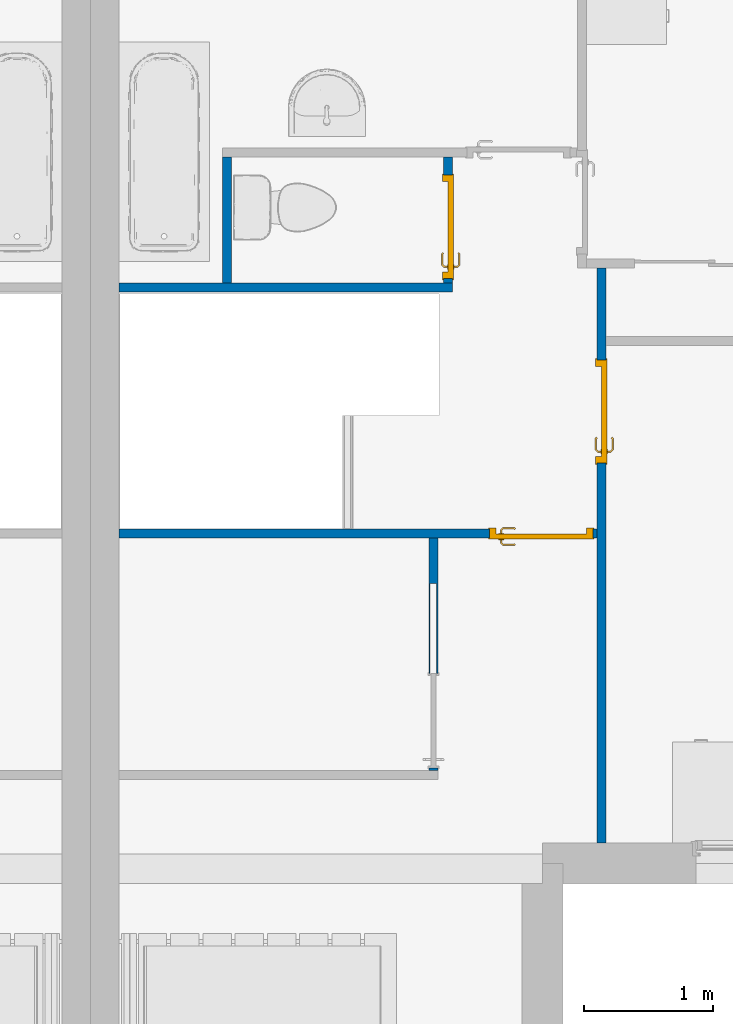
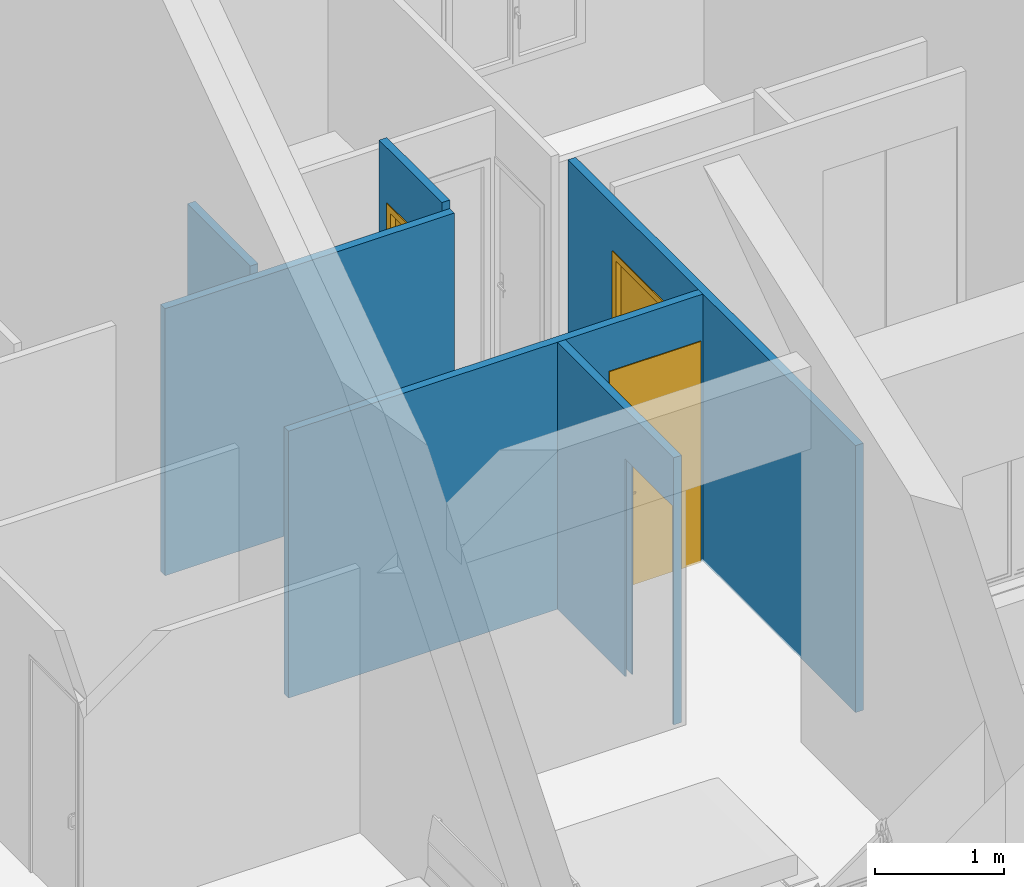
# One storey, part 16 of 61: 6 walls, 3 doors, 4 openings.
"""IFC2X3 building model written with IfcOpenShell, lengths in metres."""

from ifc_helpers import new_model, entity, si_unit, converted_unit, derived_unit, direction, frame, frame_2d, origin, place, context, subcontext, project, spatial, rectangle, extrude, faceted_brep, source, transform, mapped, material, material_list, layer, layer_set, layer_usage, type_object, type_shapes, element, fill, save


model = new_model("IFC2X3")

# Units and contexts
model_context = context("Model", 3, precision=1e-05, world=origin(), true_north=direction((6.12303176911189e-17, 1.0)))
body_context = subcontext(model_context, "Body", "Model", "MODEL_VIEW")
ifc_project = project(units=[si_unit("LENGTHUNIT", "METRE"), si_unit("AREAUNIT", "SQUARE_METRE"), si_unit("VOLUMEUNIT", "CUBIC_METRE"), converted_unit("PLANEANGLEUNIT", "DEGREE", entity("IfcRatioMeasure", 0.0174532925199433), si_unit("PLANEANGLEUNIT", "RADIAN"), dimensions=[0, 0, 0, 0, 0, 0, 0]), si_unit("MASSUNIT", "GRAM", prefix="KILO"), derived_unit("MASSDENSITYUNIT", [(si_unit("MASSUNIT", "GRAM", prefix="KILO"), 1), (si_unit("LENGTHUNIT", "METRE"), -3)]), si_unit("TIMEUNIT", "SECOND"), si_unit("FREQUENCYUNIT", "HERTZ"), si_unit("THERMODYNAMICTEMPERATUREUNIT", "DEGREE_CELSIUS"), derived_unit("THERMALTRANSMITTANCEUNIT", [(si_unit("MASSUNIT", "GRAM", prefix="KILO"), 1), (si_unit("THERMODYNAMICTEMPERATUREUNIT", "KELVIN"), -1), (si_unit("TIMEUNIT", "SECOND"), -3)]), derived_unit("VOLUMETRICFLOWRATEUNIT", [(si_unit("LENGTHUNIT", "METRE"), 3), (si_unit("TIMEUNIT", "SECOND"), -1)]), si_unit("ELECTRICCURRENTUNIT", "AMPERE"), si_unit("ELECTRICVOLTAGEUNIT", "VOLT"), si_unit("POWERUNIT", "WATT"), si_unit("FORCEUNIT", "NEWTON", prefix="KILO"), si_unit("ILLUMINANCEUNIT", "LUX"), si_unit("LUMINOUSFLUXUNIT", "LUMEN"), si_unit("LUMINOUSINTENSITYUNIT", "CANDELA"), derived_unit("USERDEFINED", [(si_unit("MASSUNIT", "GRAM", prefix="KILO"), -1), (si_unit("LENGTHUNIT", "METRE"), -2), (si_unit("TIMEUNIT", "SECOND"), 3), (si_unit("LUMINOUSFLUXUNIT", "LUMEN"), 1)]), derived_unit("LINEARVELOCITYUNIT", [(si_unit("LENGTHUNIT", "METRE"), 1), (si_unit("TIMEUNIT", "SECOND"), -1)]), si_unit("PRESSUREUNIT", "PASCAL"), derived_unit("USERDEFINED", [(si_unit("LENGTHUNIT", "METRE"), -2), (si_unit("MASSUNIT", "GRAM", prefix="KILO"), 1), (si_unit("TIMEUNIT", "SECOND"), -2)])], contexts=[model_context])

# Site, building, storey
site_placement = place(None, origin())
site = spatial("IfcSite", under=ifc_project, at=site_placement, Name="Surface", CompositionType="ELEMENT")
building_placement = place(site_placement, origin())
building = spatial("IfcBuilding", under=site, at=building_placement, CompositionType="ELEMENT")
storey_placement = place(building_placement, frame((0.0, 0.0, 2.82)))
storey = spatial("IfcBuildingStorey", under=building, at=storey_placement, Name="ETAGE", CompositionType="ELEMENT", Elevation=2.82)

# Wall, opening, door
ifc_material_1 = material(Name="Peinture - Blanc")
ifc_layer = layer(ifc_material_1, 0.07)
ifc_layer_set = layer_set([ifc_layer], Name="Mur de base:Int.  Platre 70 mm en blanc")
ifc_layer_usage_1 = layer_usage(ifc_layer_set, "AXIS2", "NEGATIVE", 0.035)
wall_type = type_object("IfcWallType", Name="Mur de base:Int.  Platre 70 mm en blanc", PredefinedType="STANDARD", material=ifc_layer_set)
wall_1_placement = place(storey_placement, frame((72.7896263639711, 80.2077566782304, 0.0), z_axis=(0.0, 0.0, 1.0), x_axis=(0.0, 1.0, 0.0)))
wall_1 = element("IfcWallStandardCase", 1, at=wall_1_placement, inside=storey, type_object=wall_type, material=ifc_layer_usage_1, Name="Mur de base:Int.  Platre 70 mm en blanc", ObjectType="Mur de base:Int.  Platre 70 mm en blanc", context=body_context, shape_type="SweptSolid", body=[
    extrude(rectangle(XDim=4.44999999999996, YDim=0.0700000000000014, at=frame_2d((2.22499999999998, 0.0), x_axis=(-1.0, 0.0))), origin(), (0.0, 0.0, 1.0), 2.52),
])
opening_1_placement = place(wall_1_placement, frame((3.74, 0.035, 0.0)))
opening_1 = element("IfcOpeningElement", 2, at=opening_1_placement, cuts=wall_1, Name="FR_Simple (R):73 x 204 - (70):1", ObjectType="Opening", context=body_context, shape_type="SweptSolid", body=[
    extrude(rectangle(XDim=2.075, YDim=0.799999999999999, at=frame_2d((1.0375, 0.400000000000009), x_axis=(1.0, 0.0))), frame((0.0, 0.0, 0.0), z_axis=(0.0, -1.0, 0.0), x_axis=(0.0, 0.0, 1.0)), (0.0, 0.0, 1.0), 0.07),
])
ifc_material_2 = material(Name="Poignée Porte")
ifc_material_3 = material(Name="Dormants Portes")
ifc_material_4 = material(Name="Panneaux Portes")
ifc_material_list_1 = material_list([ifc_material_2, ifc_material_3, ifc_material_4])
ifc_material_list_2 = material_list([ifc_material_2, ifc_material_3, ifc_material_4])
door_style = type_object("IfcDoorStyle", Name="73 x 204 - (70)", ConstructionType="NOTDEFINED", OperationType="SINGLE_SWING_LEFT", ParameterTakesPrecedence=False, Sizeable=False, material=ifc_material_list_2)
shared_shape = source(origin(), body_context, "Body", "Brep", [
    faceted_brep([(0.100352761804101, -0.0130000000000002, 0.766003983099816), (0.11, -0.0130000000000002, 0.770000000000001), (0.11, -0.0130000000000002, 0.980000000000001), (0.100352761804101, -0.0130000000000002, 0.983996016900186), (0.0900000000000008, -0.0130000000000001, 0.985358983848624), (0.0796472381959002, -0.0130000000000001, 0.983996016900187), (0.0700000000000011, -0.0130000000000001, 0.980000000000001), (0.0700000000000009, -0.0130000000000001, 0.770000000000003), (0.0796472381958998, -0.0130000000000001, 0.766003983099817), (0.0900000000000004, -0.0130000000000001, 0.764641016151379), (0.100352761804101, -0.00800000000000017, 0.983996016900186), (0.11, -0.00800000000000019, 0.980000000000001), (0.11, -0.00800000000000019, 0.770000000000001), (0.100352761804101, -0.00800000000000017, 0.766003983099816), (0.0900000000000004, -0.00800000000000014, 0.764641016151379), (0.0796472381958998, -0.0080000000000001, 0.766003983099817), (0.0700000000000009, -0.00800000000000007, 0.770000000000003), (0.0700000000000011, -0.00800000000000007, 0.980000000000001), (0.0796472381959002, -0.0080000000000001, 0.983996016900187), (0.0900000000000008, -0.00800000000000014, 0.985358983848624)], [[[0, 1, 2, 3, 4, 5, 6, 7, 8, 9]], [[10, 11, 12, 13, 14, 15, 16, 17, 18, 19]], [[16, 15, 8, 7]], [[8, 15, 14, 9]], [[14, 13, 0, 9]], [[13, 12, 1, 0]], [[2, 1, 12, 11]], [[11, 10, 3, 2]], [[3, 10, 19, 4]], [[19, 18, 5, 4]], [[18, 17, 6, 5]], [[7, 6, 17, 16]]]),
    faceted_brep([(0.100352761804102, 0.0319999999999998, 0.766003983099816), (0.110000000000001, 0.0319999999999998, 0.770000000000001), (0.11, 0.0319999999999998, 0.980000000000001), (0.100352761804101, 0.0319999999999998, 0.983996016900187), (0.0900000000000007, 0.0319999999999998, 0.985358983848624), (0.0796472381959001, 0.0319999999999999, 0.983996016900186), (0.0700000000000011, 0.0319999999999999, 0.980000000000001), (0.0700000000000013, 0.0319999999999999, 0.770000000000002), (0.0796472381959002, 0.0319999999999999, 0.766003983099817), (0.0900000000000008, 0.0319999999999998, 0.764641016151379), (0.100352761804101, 0.0369999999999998, 0.983996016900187), (0.11, 0.0369999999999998, 0.980000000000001), (0.110000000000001, 0.0369999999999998, 0.770000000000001), (0.100352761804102, 0.0369999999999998, 0.766003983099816), (0.0900000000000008, 0.0369999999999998, 0.764641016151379), (0.0796472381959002, 0.0369999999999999, 0.766003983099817), (0.0700000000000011, 0.0369999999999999, 0.770000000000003), (0.0700000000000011, 0.0369999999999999, 0.980000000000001), (0.0796472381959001, 0.0369999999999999, 0.983996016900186), (0.0900000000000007, 0.0369999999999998, 0.985358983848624)], [[[0, 1, 2, 3, 4, 5, 6, 7, 8, 9]], [[10, 11, 12, 13, 14, 15, 16, 17, 18, 19]], [[11, 10, 3, 2]], [[3, 10, 19, 4]], [[19, 18, 5, 4]], [[18, 17, 6, 5]], [[7, 6, 17, 16]], [[16, 15, 8, 7]], [[8, 15, 14, 9]], [[14, 13, 0, 9]], [[13, 12, 1, 0]], [[2, 1, 12, 11]]]),
    faceted_brep([(0.0879747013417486, -0.0130000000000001, 0.907780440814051), (0.0920252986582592, -0.0130000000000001, 0.907780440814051), (0.0960000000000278, -0.0130000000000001, 0.906999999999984), (0.0960000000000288, -0.0130000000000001, 0.893000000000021), (0.0920252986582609, -0.0130000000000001, 0.89221955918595), (0.0879747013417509, -0.0130000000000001, 0.892219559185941), (0.0839999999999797, -0.0130000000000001, 0.892999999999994), (0.0839999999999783, -0.0130000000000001, 0.90699999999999), (0.083999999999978, -0.0406509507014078, 0.906999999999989), (0.0879747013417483, -0.0390045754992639, 0.907780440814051), (0.104023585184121, -0.0550534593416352, 0.907780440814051), (0.105701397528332, -0.0510028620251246, 0.907780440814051), (0.0920252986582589, -0.0373267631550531, 0.907780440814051), (0.198521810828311, -0.0473891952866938, 0.90778044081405), (0.195657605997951, -0.0445249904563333, 0.90778044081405), (0.18917973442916, -0.0510028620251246, 0.90778044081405), (0.190857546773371, -0.0550534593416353, 0.90778044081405), (0.0960000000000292, -0.0356803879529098, 0.90699999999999), (0.0960000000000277, -0.0356803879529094, 0.893000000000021), (0.0920252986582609, -0.0373267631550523, 0.89221955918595), (0.105701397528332, -0.0510028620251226, 0.89221955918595), (0.104023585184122, -0.0550534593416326, 0.89221955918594), (0.0879747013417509, -0.0390045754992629, 0.89221955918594), (0.195657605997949, -0.044524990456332, 0.89221955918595), (0.19852181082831, -0.0473891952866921, 0.89221955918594), (0.19085754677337, -0.0550534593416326, 0.89221955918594), (0.18917973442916, -0.0510028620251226, 0.89221955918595), (0.0839999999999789, -0.0406509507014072, 0.892999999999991), (0.102377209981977, -0.0590281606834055, 0.906999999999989), (0.107347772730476, -0.0470281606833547, 0.90699999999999), (0.107347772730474, -0.0470281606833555, 0.893000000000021), (0.102377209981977, -0.0590281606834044, 0.892999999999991), (0.142307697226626, -0.0590281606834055, 0.906999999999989), (0.147440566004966, -0.053182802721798, 0.907878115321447), (0.192503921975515, -0.0590281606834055, 0.906999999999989), (0.147440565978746, -0.0470281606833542, 0.90699999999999), (0.187533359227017, -0.0470281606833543, 0.906999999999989), (0.187533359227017, -0.0470281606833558, 0.89300000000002), (0.147440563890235, -0.0470281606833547, 0.893000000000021), (0.147440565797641, -0.0531828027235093, 0.892121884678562), (0.192503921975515, -0.0590281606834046, 0.892999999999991), (0.152573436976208, -0.0590281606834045, 0.892999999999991), (0.192847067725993, -0.0417144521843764, 0.906999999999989), (0.201332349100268, -0.0501997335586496, 0.906999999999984), (0.201332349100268, -0.05019973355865, 0.892999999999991), (0.192847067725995, -0.0417144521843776, 0.893000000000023)], [[[0, 1, 2, 3, 4, 5, 6, 7]], [[8, 9, 0, 7]], [[9, 10, 11, 12, 1, 0]], [[13, 14, 15, 16]], [[12, 17, 2, 1]], [[3, 2, 17, 18]], [[18, 19, 4, 3]], [[19, 20, 21, 22, 5, 4]], [[23, 24, 25, 26]], [[22, 27, 6, 5]], [[7, 6, 27, 8]], [[28, 10, 9, 8]], [[11, 29, 17, 12]], [[18, 17, 29, 30]], [[30, 20, 19, 18]], [[21, 31, 27, 22]], [[8, 27, 31, 28]], [[32, 33, 10]], [[33, 32, 16]], [[10, 28, 32]], [[34, 16, 32]], [[33, 35, 11]], [[11, 10, 33]], [[15, 35, 33]], [[29, 11, 35]], [[35, 15, 36]], [[15, 33, 16]], [[30, 29, 35, 36, 37, 38]], [[20, 38, 39]], [[25, 40, 41]], [[31, 21, 41]], [[41, 21, 39]], [[39, 38, 26]], [[26, 25, 39]], [[38, 20, 30]], [[37, 26, 38]], [[20, 39, 21]], [[41, 39, 25]], [[28, 31, 41, 40, 34, 32]], [[42, 14, 13, 43, 44, 24, 23, 45]], [[43, 13, 16, 34]], [[14, 42, 36, 15]], [[37, 36, 42, 45]], [[45, 23, 26, 37]], [[24, 44, 40, 25]], [[34, 40, 44, 43]]]),
    faceted_brep([(0.0879747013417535, 0.0369999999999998, 0.892219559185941), (0.092025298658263, 0.0369999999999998, 0.892219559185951), (0.0960000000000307, 0.0369999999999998, 0.893000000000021), (0.096000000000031, 0.0369999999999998, 0.90699999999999), (0.0920252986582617, 0.0369999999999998, 0.907780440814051), (0.0879747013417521, 0.0369999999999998, 0.907780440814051), (0.0839999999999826, 0.0369999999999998, 0.90699999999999), (0.0839999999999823, 0.0369999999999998, 0.892999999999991), (0.0960000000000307, 0.0594852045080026, 0.893000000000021), (0.0960000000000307, 0.0594852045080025, 0.90699999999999), (0.092025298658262, 0.0611315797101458, 0.907780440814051), (0.105838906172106, 0.0749451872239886, 0.907780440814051), (0.104161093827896, 0.0789957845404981, 0.907780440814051), (0.0879747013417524, 0.0628093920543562, 0.907780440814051), (0.195684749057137, 0.0684673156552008, 0.907780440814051), (0.198548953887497, 0.071331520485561, 0.907780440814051), (0.190884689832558, 0.0789957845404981, 0.907780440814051), (0.189206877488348, 0.0749451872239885, 0.907780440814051), (0.0839999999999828, 0.0644557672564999, 0.90699999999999), (0.0839999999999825, 0.0644557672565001, 0.892999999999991), (0.0879747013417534, 0.0628093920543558, 0.892219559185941), (0.104161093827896, 0.0789957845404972, 0.892219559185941), (0.105838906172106, 0.0749451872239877, 0.892219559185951), (0.0920252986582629, 0.0611315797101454, 0.892219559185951), (0.198548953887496, 0.07133152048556, 0.89221955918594), (0.195684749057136, 0.0684673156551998, 0.89221955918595), (0.189206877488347, 0.0749451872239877, 0.89221955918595), (0.190884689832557, 0.0789957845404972, 0.89221955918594), (0.107485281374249, 0.0709704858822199, 0.893000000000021), (0.107485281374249, 0.0709704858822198, 0.90699999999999), (0.102514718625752, 0.0829704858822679, 0.90699999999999), (0.102514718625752, 0.0829704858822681, 0.892999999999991), (0.147522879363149, 0.0709704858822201, 0.89300000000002), (0.187560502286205, 0.0709704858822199, 0.89300000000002), (0.187560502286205, 0.0709704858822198, 0.90699999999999), (0.147522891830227, 0.0709704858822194, 0.90699999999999), (0.147522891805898, 0.0771249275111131, 0.907878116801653), (0.192531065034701, 0.0829704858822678, 0.90699999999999), (0.152600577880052, 0.0829704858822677, 0.90699999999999), (0.192531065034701, 0.082970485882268, 0.892999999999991), (0.142445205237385, 0.0829704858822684, 0.892999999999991), (0.147522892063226, 0.0771249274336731, 0.892121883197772), (0.192874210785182, 0.0656567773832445, 0.89300000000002), (0.201359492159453, 0.0741420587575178, 0.892999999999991), (0.201359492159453, 0.0741420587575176, 0.90699999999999), (0.192874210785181, 0.0656567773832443, 0.90699999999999)], [[[0, 1, 2, 3, 4, 5, 6, 7]], [[3, 2, 8, 9]], [[9, 10, 4, 3]], [[10, 11, 12, 13, 5, 4]], [[14, 15, 16, 17]], [[13, 18, 6, 5]], [[7, 6, 18, 19]], [[19, 20, 0, 7]], [[20, 21, 22, 23, 1, 0]], [[24, 25, 26, 27]], [[23, 8, 2, 1]], [[9, 8, 28, 29]], [[29, 11, 10, 9]], [[12, 30, 18, 13]], [[19, 18, 30, 31]], [[31, 21, 20, 19]], [[22, 28, 8, 23]], [[28, 32, 33, 34, 35, 29]], [[11, 35, 36]], [[16, 37, 38]], [[30, 12, 38]], [[38, 12, 36]], [[36, 35, 17]], [[17, 16, 36]], [[35, 11, 29]], [[34, 17, 35]], [[11, 36, 12]], [[38, 36, 16]], [[31, 30, 38, 37, 39, 40]], [[40, 41, 21]], [[41, 40, 27]], [[21, 31, 40]], [[39, 27, 40]], [[41, 32, 22]], [[22, 21, 41]], [[26, 32, 41]], [[28, 22, 32]], [[32, 26, 33]], [[26, 41, 27]], [[42, 25, 24, 43, 44, 15, 14, 45]], [[34, 33, 42, 45]], [[45, 14, 17, 34]], [[15, 44, 37, 16]], [[39, 37, 44, 43]], [[43, 24, 27, 39]], [[25, 42, 33, 26]]]),
    faceted_brep([(0.0, 0.0, 0.0), (0.0, 0.0700000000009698, 0.0), (-0.00999999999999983, 0.0700000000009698, 0.0), (-0.00999999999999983, 0.0780000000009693, 0.0), (0.0499999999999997, 0.0780000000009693, 0.0), (0.0499999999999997, 0.032, 0.0), (0.0350000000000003, 0.032, 0.0), (0.0350000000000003, -0.00799999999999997, 0.0), (-0.00999999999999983, -0.00799999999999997, 0.0), (-0.00999999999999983, 0.0, 0.0), (0.0, 0.0, 2.075), (0.0, 0.0700000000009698, 2.075), (0.799999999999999, 0.0700000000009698, 2.075), (0.799999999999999, 0.0700000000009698, 0.0), (0.809999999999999, 0.0700000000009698, 0.0), (0.809999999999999, 0.0700000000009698, 2.085), (-0.00999999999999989, 0.0700000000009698, 2.085), (-0.00999999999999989, 0.0780000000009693, 2.085), (0.809999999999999, 0.0780000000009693, 2.085), (0.809999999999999, 0.0780000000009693, 0.0), (0.75, 0.0780000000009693, 0.0), (0.75, 0.0780000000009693, 2.025), (0.0499999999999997, 0.0780000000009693, 2.025), (0.0499999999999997, 0.032, 2.025), (0.75, 0.032, 2.025), (0.75, 0.032, 0.0), (0.764999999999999, 0.032, 0.0), (0.764999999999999, 0.032, 2.04), (0.0350000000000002, 0.032, 2.04), (0.0350000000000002, -0.00799999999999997, 2.04), (0.764999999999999, -0.00799999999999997, 2.04), (0.764999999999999, -0.00799999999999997, 0.0), (0.809999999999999, -0.00799999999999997, 0.0), (0.809999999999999, -0.00799999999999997, 2.085), (-0.00999999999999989, -0.00799999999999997, 2.085), (-0.00999999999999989, 0.0, 2.085), (0.809999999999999, 0.0, 2.085), (0.809999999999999, 0.0, 0.0), (0.799999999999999, 0.0, 0.0), (0.799999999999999, 0.0, 2.075)], [[[0, 1, 2, 3, 4, 5, 6, 7, 8, 9]], [[1, 0, 10, 11]], [[2, 1, 11, 12, 13, 14, 15, 16]], [[3, 2, 16, 17]], [[4, 3, 17, 18, 19, 20, 21, 22]], [[5, 4, 22, 23]], [[6, 5, 23, 24, 25, 26, 27, 28]], [[7, 6, 28, 29]], [[8, 7, 29, 30, 31, 32, 33, 34]], [[9, 8, 34, 35]], [[0, 9, 35, 36, 37, 38, 39, 10]], [[11, 10, 39, 12]], [[17, 16, 15, 18]], [[23, 22, 21, 24]], [[29, 28, 27, 30]], [[35, 34, 33, 36]], [[38, 37, 32, 31, 26, 25, 20, 19, 14, 13]], [[12, 39, 38, 13]], [[18, 15, 14, 19]], [[24, 21, 20, 25]], [[30, 27, 26, 31]], [[36, 33, 32, 37]]]),
    faceted_brep([(0.0350000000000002, -0.00799999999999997, 2.04), (0.0350000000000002, -0.00799999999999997, 0.0), (0.764999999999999, -0.00799999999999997, 0.0), (0.764999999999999, -0.00799999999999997, 2.04), (0.0350000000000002, 0.032, 2.04), (0.764999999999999, 0.032, 2.04), (0.764999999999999, 0.032, 0.0), (0.0350000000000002, 0.032, 0.0)], [[[0, 1, 2, 3]], [[4, 5, 6, 7]], [[1, 0, 4, 7]], [[2, 1, 7, 6]], [[3, 2, 6, 5]], [[0, 3, 5, 4]]]),
])
type_shapes(door_style, [shared_shape])
door_1_placement = place(opening_1_placement, frame((-0.800000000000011, -0.0699999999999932, 0.0)))
door_1 = element("IfcDoor", 3, at=door_1_placement, inside=storey, type_object=door_style, material=ifc_material_list_1, Name="FR_Simple (R):73 x 204 - (70)", ObjectType="FR_Simple (R):73 x 204 - (70)", OverallHeight=2.075, OverallWidth=0.800000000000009, context=body_context, shape_type="MappedRepresentation", body=[
    mapped(shared_shape, transform((0.0, 0.0, 0.0), scale=1.0)),
])
fill(opening_1, door_1)

ifc_layer_usage_2 = layer_usage(ifc_layer_set, "AXIS2", "NEGATIVE", 0.035)
wall_2_placement = place(storey_placement, frame((72.7546263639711, 82.6027566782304, 0.0), z_axis=(0.0, 0.0, 1.0), x_axis=(-1.0, 0.0, 0.0)))
wall_2 = element("IfcWallStandardCase", 4, at=wall_2_placement, inside=storey, type_object=wall_type, material=ifc_layer_usage_2, Name="Mur de base:Int.  Platre 70 mm en blanc", ObjectType="Mur de base:Int.  Platre 70 mm en blanc", context=body_context, shape_type="SweptSolid", body=[
    extrude(rectangle(XDim=3.70038340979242, YDim=0.0699999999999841, at=frame_2d((1.85019170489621, 0.0), x_axis=(-1.0, 0.0))), origin(), (0.0, 0.0, 1.0), 2.52),
])
opening_2_placement = place(wall_2_placement, frame((0.0299999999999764, -0.035, 0.0)))
opening_2 = element("IfcOpeningElement", 5, at=opening_2_placement, cuts=wall_2, Name="FR_Simple (R):73 x 204 - (70):1", ObjectType="Opening", context=body_context, shape_type="SweptSolid", body=[
    extrude(rectangle(XDim=2.075, YDim=0.799999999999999, at=frame_2d((1.0375, 0.4), x_axis=(1.0, 0.0))), frame((0.0, 0.0, 0.0), z_axis=(0.0, 1.0, 0.0), x_axis=(0.0, 0.0, 1.0)), (0.0, 0.0, 1.0), 0.07),
])
ifc_material_list_3 = material_list([ifc_material_2, ifc_material_3, ifc_material_4])
door_2_placement = place(opening_2_placement, frame((0.800000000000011, 0.0699999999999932, 0.0), z_axis=(0.0, 0.0, 1.0), x_axis=(-1.0, 0.0, 0.0)))
door_2 = element("IfcDoor", 6, at=door_2_placement, inside=storey, type_object=door_style, material=ifc_material_list_3, Name="FR_Simple (R):73 x 204 - (70)", ObjectType="FR_Simple (R):73 x 204 - (70)", OverallHeight=2.075, OverallWidth=0.8, context=body_context, shape_type="MappedRepresentation", body=[
    mapped(shared_shape, transform((0.0, 0.0, 0.0), scale=1.0)),
])
fill(opening_2, door_2)

# Wall
ifc_layer_usage_3 = layer_usage(ifc_layer_set, "AXIS2", "NEGATIVE", 0.035)
wall_3_placement = place(storey_placement, frame((69.0542429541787, 84.5094372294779, 0.0)))
element("IfcWallStandardCase", 7, at=wall_3_placement, inside=storey, type_object=wall_type, material=ifc_layer_usage_3, Name="Mur de base:Int.  Platre 70 mm en blanc", ObjectType="Mur de base:Int.  Platre 70 mm en blanc", context=body_context, shape_type="SweptSolid", body=[
    extrude(rectangle(XDim=2.58204916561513, YDim=0.0699999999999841, at=frame_2d((1.29102458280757, 0.0), x_axis=(-1.0, 0.0))), origin(), (0.0, 0.0, 1.0), 2.52),
])

# Wall, opening, door
ifc_layer_usage_4 = layer_usage(ifc_layer_set, "AXIS2", "NEGATIVE", 0.035)
wall_4_placement = place(storey_placement, frame((71.6012921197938, 84.5444372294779, 0.0), z_axis=(0.0, 0.0, 1.0), x_axis=(0.0, 1.0, 0.0)))
wall_4 = element("IfcWallStandardCase", 8, at=wall_4_placement, inside=storey, type_object=wall_type, material=ifc_layer_usage_4, Name="Mur de base:Int.  Platre 70 mm en blanc", ObjectType="Mur de base:Int.  Platre 70 mm en blanc", context=body_context, shape_type="SweptSolid", body=[
    extrude(rectangle(XDim=0.973319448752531, YDim=0.0700000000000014, at=frame_2d((0.486659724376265, 0.0), x_axis=(-1.0, 0.0))), origin(), (0.0, 0.0, 1.0), 2.6),
])
opening_3_placement = place(wall_4_placement, frame((0.833319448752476, 0.035, 0.0)))
opening_3 = element("IfcOpeningElement", 9, at=opening_3_placement, cuts=wall_4, Name="FR_Simple (R):73 x 204 - (70):1", ObjectType="Opening", context=body_context, shape_type="SweptSolid", body=[
    extrude(rectangle(XDim=2.075, YDim=0.799999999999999, at=frame_2d((1.0375, 0.400000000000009), x_axis=(1.0, 0.0))), frame((0.0, 0.0, 0.0), z_axis=(0.0, -1.0, 0.0), x_axis=(0.0, 0.0, 1.0)), (0.0, 0.0, 1.0), 0.07),
])
ifc_material_list_4 = material_list([ifc_material_2, ifc_material_3, ifc_material_4])
door_3_placement = place(opening_3_placement, frame((-0.800000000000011, -0.0700000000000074, 0.0)))
door_3 = element("IfcDoor", 10, at=door_3_placement, inside=storey, type_object=door_style, material=ifc_material_list_4, Name="FR_Simple (R):73 x 204 - (70)", ObjectType="FR_Simple (R):73 x 204 - (70)", OverallHeight=2.075, OverallWidth=0.800000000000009, context=body_context, shape_type="MappedRepresentation", body=[
    mapped(shared_shape, transform((0.0, 0.0, 0.0), scale=1.0)),
])
fill(opening_3, door_3)

# Wall, opening
ifc_layer_usage_5 = layer_usage(ifc_layer_set, "AXIS2", "NEGATIVE", 0.035)
wall_5_placement = place(storey_placement, frame((71.4896263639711, 82.5677566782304, 0.0), z_axis=(0.0, 0.0, 1.0), x_axis=(0.0, -1.0, 0.0)))
wall_5 = element("IfcWallStandardCase", 11, at=wall_5_placement, inside=storey, type_object=wall_type, material=ifc_layer_usage_5, Name="Mur de base:Int.  Platre 70 mm en blanc", ObjectType="Mur de base:Int.  Platre 70 mm en blanc", context=body_context, shape_type="SweptSolid", body=[
    extrude(rectangle(XDim=1.80000000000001, YDim=0.0700000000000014, at=frame_2d((0.900000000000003, 0.0), x_axis=(-1.0, 0.0))), origin(), (0.0, 0.0, 1.0), 2.52),
])
opening_4_placement = place(wall_5_placement, frame((1.77999999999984, -0.185000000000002, 0.0), z_axis=(0.0, 0.0, 1.0), x_axis=(0.0, 1.0, 0.0)))
element("IfcOpeningElement", 12, at=opening_4_placement, cuts=wall_5, Name="Mur de base:Int.  Platre 70 mm en blanc", ObjectType="Opening", context=body_context, shape_type="Brep", body=[
    faceted_brep([(0.370000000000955, 0.0, 2.055), (0.0, 0.0, 2.055), (0.0, 0.0, 0.0), (0.370000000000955, 0.0, 0.0), (0.370000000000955, 0.730000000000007, 2.055), (0.370000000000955, 0.72999999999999, 0.0), (0.210000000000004, 0.730000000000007, 2.055), (0.209999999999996, 0.72999999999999, 0.0), (0.210000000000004, 1.43, 2.055), (0.209999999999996, 1.43, 0.0), (0.159999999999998, 1.43, 2.055), (0.159999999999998, 1.43, 0.0), (0.159999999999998, 0.730000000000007, 2.055), (0.159999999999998, 0.72999999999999, 0.0), (0.0, 0.730000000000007, 2.055), (0.0, 0.730000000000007, 0.0)], [[[0, 1, 2, 3]], [[4, 0, 3, 5]], [[6, 4, 5, 7]], [[8, 6, 7, 9]], [[10, 8, 9, 11]], [[12, 10, 11, 13]], [[14, 1, 0, 4, 6, 8, 10, 12]], [[15, 13, 11, 9, 7, 5, 3, 2]], [[1, 14, 15, 2]], [[14, 12, 13, 15]]]),
])

# Wall
ifc_layer_usage_6 = layer_usage(ifc_layer_set, "AXIS2", "NEGATIVE", 0.035)
wall_6_placement = place(storey_placement, frame((69.8896263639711, 84.5444372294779, 0.0), z_axis=(0.0, 0.0, 1.0), x_axis=(0.0, 1.0, 0.0)))
element("IfcWallStandardCase", 13, at=wall_6_placement, inside=storey, type_object=wall_type, material=ifc_layer_usage_6, Name="Mur de base:Int.  Platre 70 mm en blanc", ObjectType="Mur de base:Int.  Platre 70 mm en blanc", context=body_context, shape_type="SweptSolid", body=[
    extrude(rectangle(XDim=0.973319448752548, YDim=0.0700000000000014, at=frame_2d((0.486659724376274, 0.0), x_axis=(-1.0, 0.0))), origin(), (0.0, 0.0, 1.0), 2.6),
])

save(model, "model.ifc")
